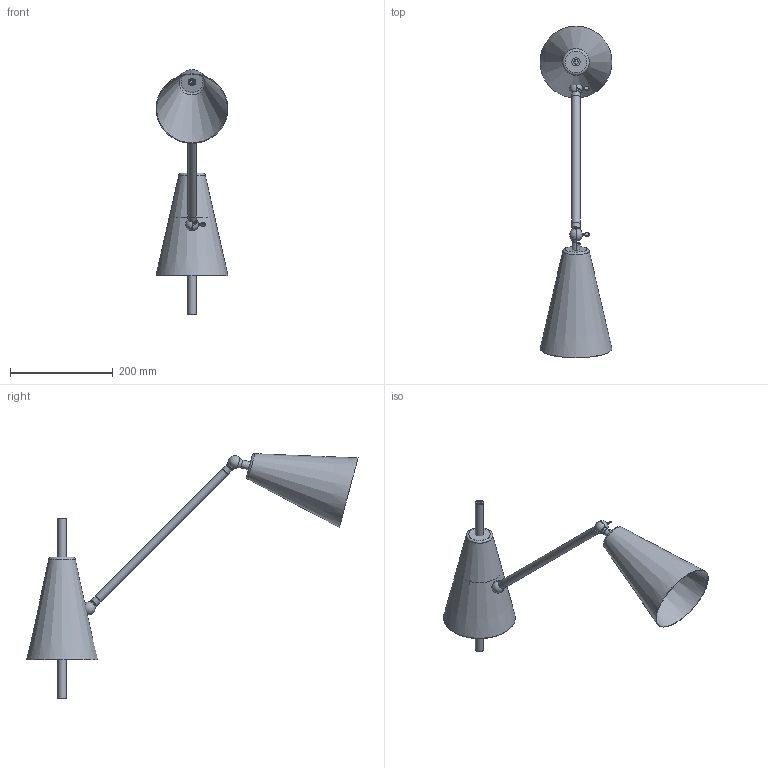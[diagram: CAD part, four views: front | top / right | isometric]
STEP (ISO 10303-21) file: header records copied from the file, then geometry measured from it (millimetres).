
FILE_DESCRIPTION( ( 'STEP AP203' ), '1' );
FILE_NAME( '//srvbf/BF Disegni/NEOS (ex MEG)/APPLIQUE/NEOS-A1N Applique NERA 3D.stp', '2020-10-15T14:51:34', ( ' ' ), ( ' ' ), 'XStep 1.0', ' ', ' ' );
FILE_SCHEMA( ( 'CONFIG_CONTROL_DESIGN) ( )' ) );
Length unit declared in the file: metre
Products named in the file (10): Assem1; 1; 2; 3; 4; 5; 6; 7; 8; 9
Bounding box: 140 x 646.54 x 476.29 mm (x, y, z)
Volume: 275971.5 mm3; surface area: 373107.1 mm2
Topology: 18 solids, 18 shells, 302 faces, 770 edges, 484 vertices
Faces by surface type: plane 136, cylinder 64, torus 56, cone 30, sphere 16
Full cylindrical faces by diameter (mm): 5 x4, 8.917 x2, 9 x4, 10 x4, 16 x6, 82 x2, 85 x2
Entity records: 4995 total; most frequent: CARTESIAN_POINT 1062, DIRECTION 775, ORIENTED_EDGE 664, EDGE_CURVE 332, AXIS2_PLACEMENT_3D 310, VERTEX_POINT 221, EDGE_LOOP 191, FACE_OUTER_BOUND 171
